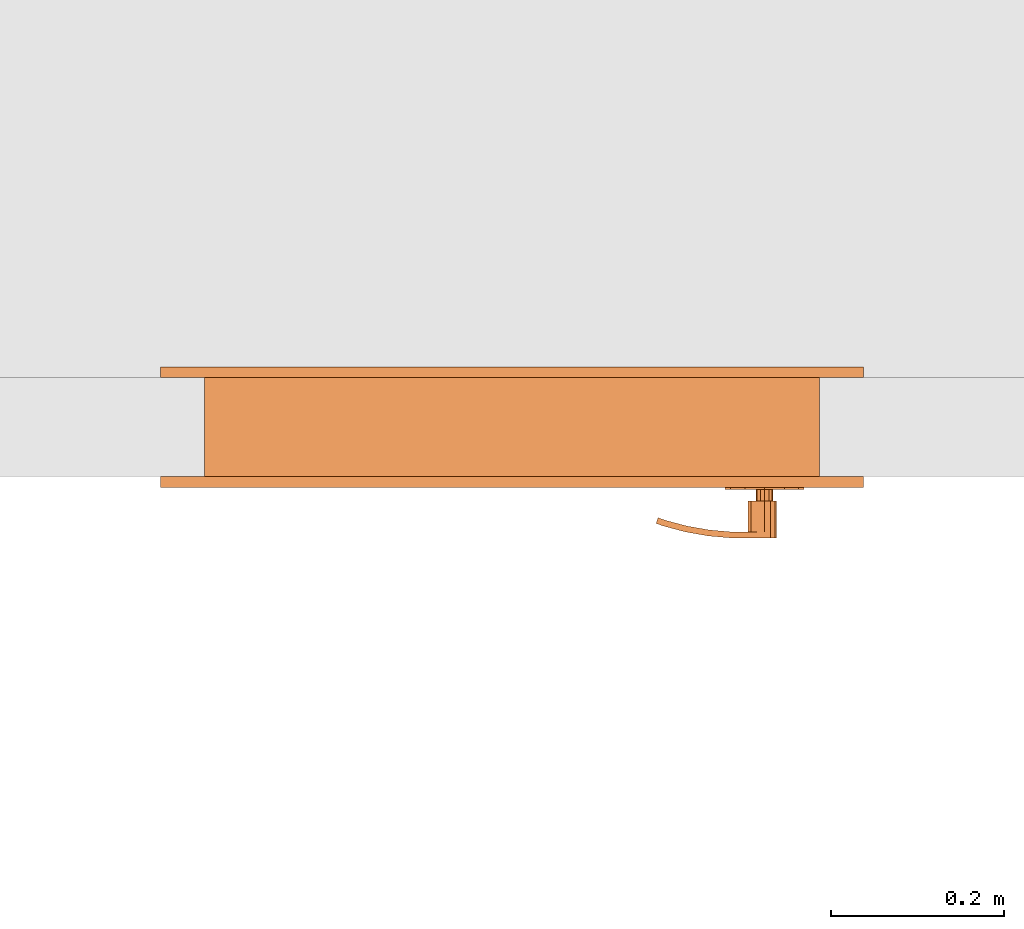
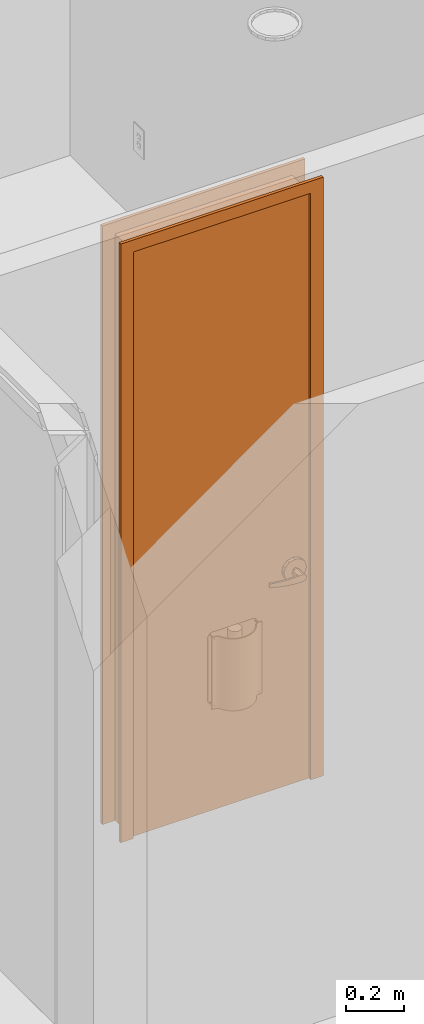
# One storey, part 43 of 48: 1 proxy.
"""IFC2X3 building model written with IfcOpenShell, lengths in inches."""

from ifc_helpers import new_model, entity, si_unit, converted_unit, derived_unit, money_unit, direction, frame, origin_with_axes, place, context, subcontext, project, spatial, open_shell, faceted_brep, surface_model, type_object, element, save


model = new_model("IFC2X3")

# Units and contexts
model_context = context("Model", 3, precision=0.00039370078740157, world=origin_with_axes(), true_north=direction((0.0, 1.0)))
plan_context = context("Plan", 3, precision=0.00039370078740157, world=origin_with_axes(), true_north=direction((0.0, 1.0)))
body_context = subcontext(model_context, "Body", "Model", "MODEL_VIEW")
ifc_project = project(units=[converted_unit("LENGTHUNIT", "INCH", entity("IfcPositiveLengthMeasure", 0.0254), si_unit("LENGTHUNIT", "METRE"), dimensions=[1, 0, 0, 0, 0, 0, 0]), converted_unit("AREAUNIT", "SQUARE_FOOT", entity("IfcPositiveLengthMeasure", 0.09290304), si_unit("AREAUNIT", "SQUARE_METRE"), dimensions=[2, 0, 0, 0, 0, 0, 0]), si_unit("PLANEANGLEUNIT", "RADIAN"), si_unit("SOLIDANGLEUNIT", "STERADIAN"), money_unit("USD"), converted_unit("TIMEUNIT", "Year", entity("IfcTimeMeasure", 31557600.0), si_unit("TIMEUNIT", "SECOND"), dimensions=[0, 0, 1, 0, 0, 0, 0]), si_unit("MASSUNIT", "GRAM", prefix="KILO"), si_unit("THERMODYNAMICTEMPERATUREUNIT", "DEGREE_CELSIUS"), si_unit("LUMINOUSINTENSITYUNIT", "LUMEN"), si_unit("ENERGYUNIT", "JOULE", prefix="MEGA"), derived_unit("SPECIFICHEATCAPACITYUNIT", [(si_unit("ENERGYUNIT", "JOULE"), 1), (si_unit("MASSUNIT", "GRAM", prefix="KILO"), -1), (si_unit("THERMODYNAMICTEMPERATUREUNIT", "KELVIN"), -1)])], contexts=[model_context, plan_context])

# Site, building, storey
site_placement = place(None, origin_with_axes())
site = spatial("IfcSite", under=ifc_project, at=site_placement, Name="Site", CompositionType="ELEMENT")
building_placement = place(site_placement, origin_with_axes())
building = spatial("IfcBuilding", under=site, at=building_placement, Name="Building", CompositionType="ELEMENT")
storey_placement = place(building_placement, origin_with_axes())
storey = spatial("IfcBuildingStorey", under=building, at=storey_placement, Name="First Floor", CompositionType="ELEMENT", Elevation=0.0)

# Proxy
building_element_proxy_type = type_object("IfcBuildingElementProxyType", Name="D1", PredefinedType="NOTDEFINED")
proxy_placement = place(storey_placement, frame((55.49999999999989, 412.999999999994, 0.0), z_axis=(0.0, 0.0, 1.0), x_axis=(-1.0, 0.0, 0.0)))
element("IfcBuildingElementProxy", 1, at=proxy_placement, inside=storey, type_object=building_element_proxy_type, Name="D-08", context=body_context, shape_type="SurfaceModel", body=[
    faceted_brep([(-1.999999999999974, 4.999999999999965, 0.0), (0.0, 4.999999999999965, 0.0), (0.0, 4.499999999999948, 0.0), (-1.999999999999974, 4.499999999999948, 0.0), (-1.999999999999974, 4.999999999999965, 99.99999999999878), (0.0, 4.999999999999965, 97.99999999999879), (0.0, 4.499999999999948, 97.99999999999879), (-1.999999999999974, 4.499999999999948, 99.99999999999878)], [[[0, 1, 2, 3]], [[0, 4, 5, 1]], [[1, 5, 6, 2]], [[3, 2, 6, 7]], [[4, 0, 3, 7]], [[5, 4, 7, 6]]]),
    faceted_brep([(29.99999999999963, 4.999999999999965, 99.99999999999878), (27.99999999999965, 4.999999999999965, 97.99999999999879), (27.99999999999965, 4.499999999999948, 97.99999999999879), (29.99999999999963, 4.499999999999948, 99.99999999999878), (29.99999999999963, 4.999999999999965, 0.0), (27.99999999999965, 4.999999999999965, 0.0), (27.99999999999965, 4.499999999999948, 0.0), (29.99999999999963, 4.499999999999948, 0.0)], [[[0, 1, 2, 3]], [[0, 4, 5, 1]], [[1, 5, 6, 2]], [[3, 2, 6, 7]], [[4, 0, 3, 7]], [[5, 4, 7, 6]]]),
    faceted_brep([(-1.999999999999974, 4.999999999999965, 99.99999999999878), (0.0, 4.999999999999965, 97.99999999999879), (0.0, 4.499999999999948, 97.99999999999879), (-1.999999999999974, 4.499999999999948, 99.99999999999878), (29.99999999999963, 4.999999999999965, 99.99999999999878), (27.99999999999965, 4.999999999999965, 97.99999999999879), (27.99999999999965, 4.499999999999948, 97.99999999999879), (29.99999999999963, 4.499999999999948, 99.99999999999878)], [[[0, 1, 2, 3]], [[0, 4, 5, 1]], [[1, 5, 6, 2]], [[3, 2, 6, 7]], [[4, 0, 3, 7]], [[5, 4, 7, 6]]]),
    faceted_brep([(-1.999999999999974, -0.5000000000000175, 0.0), (-1.999999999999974, 0.0, 0.0), (0.0, 0.0, 0.0), (0.0, -0.5000000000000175, 0.0), (-1.999999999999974, -0.5000000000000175, 99.99999999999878), (-1.999999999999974, 0.0, 99.99999999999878), (0.0, 0.0, 97.99999999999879), (0.0, -0.5000000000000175, 97.99999999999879)], [[[0, 1, 2, 3]], [[4, 5, 1, 0]], [[1, 5, 6, 2]], [[3, 2, 6, 7]], [[0, 3, 7, 4]], [[7, 6, 5, 4]]]),
    faceted_brep([(29.99999999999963, -0.5000000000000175, 99.99999999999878), (29.99999999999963, 0.0, 99.99999999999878), (27.99999999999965, 0.0, 97.99999999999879), (27.99999999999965, -0.5000000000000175, 97.99999999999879), (29.99999999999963, -0.5000000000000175, 0.0), (29.99999999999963, 0.0, 0.0), (27.99999999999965, 0.0, 0.0), (27.99999999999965, -0.5000000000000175, 0.0)], [[[0, 1, 2, 3]], [[4, 5, 1, 0]], [[1, 5, 6, 2]], [[3, 2, 6, 7]], [[0, 3, 7, 4]], [[7, 6, 5, 4]]]),
    faceted_brep([(-1.999999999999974, -0.5000000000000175, 99.99999999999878), (-1.999999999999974, 0.0, 99.99999999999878), (0.0, 0.0, 97.99999999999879), (0.0, -0.5000000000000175, 97.99999999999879), (29.99999999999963, -0.5000000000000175, 99.99999999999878), (29.99999999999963, 0.0, 99.99999999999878), (27.99999999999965, 0.0, 97.99999999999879), (27.99999999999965, -0.5000000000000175, 97.99999999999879)], [[[0, 1, 2, 3]], [[4, 5, 1, 0]], [[1, 5, 6, 2]], [[3, 2, 6, 7]], [[0, 3, 7, 4]], [[7, 6, 5, 4]]]),
    faceted_brep([(0.0, 4.499999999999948, 0.0), (0.4999999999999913, 4.499999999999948, 0.0), (0.4999999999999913, 0.0, 0.0), (0.0, 0.0, 0.0), (0.0, 4.499999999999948, 97.49999999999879), (0.4999999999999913, 4.499999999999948, 97.49999999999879), (0.4999999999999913, 0.0, 97.49999999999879), (0.0, 0.0, 97.49999999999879)], [[[0, 1, 2, 3]], [[0, 4, 5, 1]], [[1, 5, 6, 2]], [[3, 2, 6, 7]], [[4, 0, 3, 7]], [[5, 4, 7, 6]]]),
    faceted_brep([(27.99999999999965, 4.499999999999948, 0.0), (27.99999999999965, 4.499999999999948, 97.49999999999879), (27.99999999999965, 0.0, 97.49999999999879), (27.99999999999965, 0.0, 0.0), (27.49999999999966, 4.499999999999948, 0.0), (27.49999999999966, 4.499999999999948, 97.49999999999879), (27.49999999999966, 0.0, 97.49999999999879), (27.49999999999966, 0.0, 0.0)], [[[0, 1, 2, 3]], [[0, 4, 5, 1]], [[1, 5, 6, 2]], [[3, 2, 6, 7]], [[4, 0, 3, 7]], [[5, 4, 7, 6]]]),
    faceted_brep([(0.0, 4.499999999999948, 97.99999999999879), (0.0, 4.499999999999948, 97.49999999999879), (0.0, 0.0, 97.49999999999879), (0.0, 0.0, 97.99999999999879), (27.99999999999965, 4.499999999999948, 97.99999999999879), (27.99999999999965, 4.499999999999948, 97.49999999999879), (27.49999999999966, 4.499999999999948, 97.49999999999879), (0.4999999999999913, 4.499999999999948, 97.49999999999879), (0.4999999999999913, 0.0, 97.49999999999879), (27.49999999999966, 0.0, 97.49999999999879), (27.99999999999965, 0.0, 97.49999999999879), (27.99999999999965, 0.0, 97.99999999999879)], [[[0, 1, 2, 3]], [[0, 4, 5, 6, 7, 1]], [[1, 7, 8, 2]], [[3, 2, 8, 9, 10, 11]], [[4, 0, 3, 11]], [[5, 4, 11, 10]], [[6, 5, 10, 9]], [[7, 6, 9, 8]]]),
    surface_model("IfcShellBasedSurfaceModel", [(4.051344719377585, 2.159448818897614, 36.89566929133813), (4.291338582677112, 2.159448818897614, 35.99999999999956), (4.291338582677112, 2.16338582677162, 35.99999999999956), (4.051344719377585, 2.16338582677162, 36.89566929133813), (3.395669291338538, 2.159448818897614, 37.55134471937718), (2.499999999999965, 2.159448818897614, 37.7913385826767), (1.604330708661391, 2.159448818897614, 37.55134471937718), (0.9486552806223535, 2.159448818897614, 36.89566929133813), (0.7086614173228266, 2.159448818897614, 35.99999999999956), (0.9486552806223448, 2.159448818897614, 35.10433070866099), (1.604330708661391, 2.159448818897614, 34.44865528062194), (2.499999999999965, 2.159448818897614, 34.20866141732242), (3.395669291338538, 2.159448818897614, 34.44865528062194), (4.051344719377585, 2.159448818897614, 35.10433070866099), (4.051344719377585, 2.16338582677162, 35.10433070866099), (4.291338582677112, 2.746062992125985, 35.99999999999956), (4.051344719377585, 2.746062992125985, 36.89566929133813), (3.395669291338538, 2.16338582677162, 37.55134471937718), (2.499999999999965, 2.16338582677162, 37.7913385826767), (1.604330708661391, 2.16338582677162, 37.55134471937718), (0.9486552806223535, 2.16338582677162, 36.89566929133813), (0.7086614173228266, 2.16338582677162, 35.99999999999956), (0.9486552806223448, 2.16338582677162, 35.10433070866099), (1.604330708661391, 2.16338582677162, 34.44865528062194), (2.499999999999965, 2.16338582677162, 34.20866141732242), (3.395669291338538, 2.16338582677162, 34.44865528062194), (4.051344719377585, 2.746062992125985, 35.10433070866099), (4.291338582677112, 2.749999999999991, 35.99999999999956), (4.051344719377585, 2.749999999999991, 36.89566929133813), (3.395669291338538, 2.746062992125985, 37.55134471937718), (2.499999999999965, 2.746062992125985, 37.7913385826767), (1.604330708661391, 2.746062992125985, 37.55134471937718), (0.9486552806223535, 2.746062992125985, 36.89566929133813), (0.7086614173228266, 2.746062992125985, 35.99999999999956), (0.9486552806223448, 2.746062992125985, 35.10433070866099), (1.604330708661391, 2.746062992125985, 34.44865528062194), (2.499999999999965, 2.746062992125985, 34.20866141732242), (3.395669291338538, 2.746062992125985, 34.44865528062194), (4.051344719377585, 2.749999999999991, 35.10433070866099), (3.395669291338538, 2.749999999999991, 37.55134471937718), (2.499999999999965, 2.749999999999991, 37.7913385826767), (1.604330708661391, 2.749999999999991, 37.55134471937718), (0.9486552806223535, 2.749999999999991, 36.89566929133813), (0.7086614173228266, 2.749999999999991, 35.99999999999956), (0.9486552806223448, 2.749999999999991, 35.10433070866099), (1.604330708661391, 2.749999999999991, 34.44865528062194), (2.499999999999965, 2.749999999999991, 34.20866141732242), (3.395669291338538, 2.749999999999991, 34.44865528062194)], [open_shell([[[0, 1, 2, 3]], [[1, 0, 4, 5, 6, 7, 8, 9, 10, 11, 12, 13]], [[1, 13, 14, 2]], [[3, 2, 15, 16]], [[4, 0, 3, 17]], [[5, 4, 17, 18]], [[6, 5, 18, 19]], [[7, 6, 19, 20]], [[8, 7, 20, 21]], [[9, 8, 21, 22]], [[10, 9, 22, 23]], [[11, 10, 23, 24]], [[12, 11, 24, 25]], [[13, 12, 25, 14]], [[2, 14, 26, 15]], [[16, 15, 27, 28]], [[17, 3, 16, 29]], [[18, 17, 29, 30]], [[19, 18, 30, 31]], [[20, 19, 31, 32]], [[21, 20, 32, 33]], [[22, 21, 33, 34]], [[23, 22, 34, 35]], [[24, 23, 35, 36]], [[25, 24, 36, 37]], [[14, 25, 37, 26]], [[15, 26, 38, 27]], [[29, 16, 28, 39]], [[30, 29, 39, 40]], [[31, 30, 40, 41]], [[32, 31, 41, 42]], [[33, 32, 42, 43]], [[34, 33, 43, 44]], [[35, 34, 44, 45]], [[36, 35, 45, 46]], [[37, 36, 46, 47]], [[26, 37, 47, 38]]])]),
    faceted_brep([(2.303149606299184, 2.159448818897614, 35.65904511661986), (2.159045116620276, 2.159448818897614, 35.80314960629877), (2.106299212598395, 2.159448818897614, 35.99999999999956), (2.159045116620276, 2.159448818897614, 36.19685039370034), (2.303149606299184, 2.159448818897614, 36.34095488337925), (2.499999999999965, 2.159448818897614, 36.39370078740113), (2.696850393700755, 2.159448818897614, 36.34095488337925), (2.840954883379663, 2.159448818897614, 36.19685039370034), (2.893700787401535, 2.159448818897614, 35.99999999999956), (2.840954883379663, 2.159448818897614, 35.80314960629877), (2.696850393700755, 2.159448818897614, 35.65904511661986), (2.499999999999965, 2.159448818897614, 35.60629921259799), (2.303149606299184, 1.647637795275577, 35.65904511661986), (2.159045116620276, 1.647637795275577, 35.80314960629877), (2.106299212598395, 1.647637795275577, 35.99999999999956), (2.159045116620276, 1.647637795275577, 36.19685039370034), (2.303149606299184, 1.647637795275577, 36.34095488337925), (2.499999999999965, 1.647637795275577, 36.39370078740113), (2.696850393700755, 1.647637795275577, 36.34095488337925), (2.840954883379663, 1.647637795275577, 36.19685039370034), (2.893700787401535, 1.647637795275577, 35.99999999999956), (2.840954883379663, 1.647637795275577, 35.80314960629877), (2.696850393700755, 1.647637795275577, 35.65904511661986), (2.499999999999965, 1.647637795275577, 35.60629921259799)], [[[0, 1, 2, 3, 4, 5, 6, 7, 8, 9, 10, 11]], [[1, 0, 12, 13]], [[2, 1, 13, 14]], [[3, 2, 14, 15]], [[4, 3, 15, 16]], [[5, 4, 16, 17]], [[6, 5, 17, 18]], [[7, 6, 18, 19]], [[8, 7, 19, 20]], [[9, 8, 20, 21]], [[10, 9, 21, 22]], [[11, 10, 22, 23]], [[0, 11, 23, 12]], [[12, 23, 22, 21, 20, 19, 18, 17, 16, 15, 14, 13]]]),
    faceted_brep([(2.499999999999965, 1.647637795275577, 36.55118110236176), (2.22440944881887, 1.647637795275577, 36.47733683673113), (2.22440944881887, 0.2303149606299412, 36.47733683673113), (2.499999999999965, 0.2303149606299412, 36.55118110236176), (2.893700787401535, 1.647637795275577, 36.47244094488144), (3.126478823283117, 1.647637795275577, 36.35358914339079), (3.262948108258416, 1.647637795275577, 36.13068221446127), (3.262948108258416, 1.647637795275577, 35.86931778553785), (3.126478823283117, 1.647637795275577, 35.64641085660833), (2.893700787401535, 1.647637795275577, 35.52755905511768), (2.499999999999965, 1.647637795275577, 35.44881889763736), (2.22440944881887, 1.647637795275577, 35.52266316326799), (2.022663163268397, 1.647637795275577, 35.72440944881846), (1.948818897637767, 1.647637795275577, 35.99999999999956), (2.022663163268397, 1.647637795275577, 36.27559055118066), (2.022663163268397, 0.2303149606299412, 36.27559055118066), (1.948818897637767, 0.2303149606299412, 35.99999999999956), (2.022663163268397, 0.2303149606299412, 35.72440944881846), (2.22440944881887, 0.2303149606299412, 35.52266316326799), (2.499999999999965, 0.2303149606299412, 35.44881889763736), (2.893700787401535, 0.2303149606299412, 35.52755905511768), (3.126478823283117, 0.2303149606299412, 35.64641085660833), (3.262948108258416, 0.2303149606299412, 35.86931778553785), (3.262948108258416, 0.2303149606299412, 36.13068221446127), (3.126478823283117, 0.2303149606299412, 36.35358914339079), (2.893700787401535, 0.2303149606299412, 36.47244094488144)], [[[0, 1, 2, 3]], [[0, 4, 5, 6, 7, 8, 9, 10, 11, 12, 13, 14, 1]], [[1, 14, 15, 2]], [[3, 2, 15, 16, 17, 18, 19, 20, 21, 22, 23, 24, 25]], [[4, 0, 3, 25]], [[5, 4, 25, 24]], [[6, 5, 24, 23]], [[7, 6, 23, 22]], [[8, 7, 22, 21]], [[9, 8, 21, 20]], [[10, 9, 20, 19]], [[11, 10, 19, 18]], [[12, 11, 18, 17]], [[13, 12, 17, 16]], [[14, 13, 16, 15]]]),
    surface_model("IfcShellBasedSurfaceModel", [(2.499999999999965, 0.2303149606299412, 36.55118110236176), (2.22440944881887, 0.2303149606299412, 36.47733683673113), (2.22440944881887, -0.04527559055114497, 36.47733683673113), (2.499999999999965, -0.04527559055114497, 36.55118110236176), (3.484251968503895, 0.2303149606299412, 36.55118110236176), (3.484251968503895, 0.2303149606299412, 35.44881889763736), (2.499999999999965, 0.2303149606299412, 35.44881889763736), (2.22440944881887, 0.2303149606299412, 35.52266316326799), (2.022663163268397, 0.2303149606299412, 35.72440944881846), (1.948818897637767, 0.2303149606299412, 35.99999999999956), (2.022663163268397, 0.2303149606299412, 36.27559055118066), (2.022663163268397, -0.04527559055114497, 36.27559055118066), (1.948818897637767, -0.04527559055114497, 35.99999999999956), (2.022663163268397, -0.04527559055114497, 35.72440944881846), (2.22440944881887, -0.04527559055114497, 35.52266316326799), (2.499999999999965, -0.04527559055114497, 35.44881889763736), (3.484251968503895, -0.04527559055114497, 35.44881889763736), (3.484251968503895, -0.04527559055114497, 36.55118110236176)], [open_shell([[[0, 1, 2, 3]], [[0, 4, 5, 6, 7, 8, 9, 10, 1]], [[1, 10, 11, 2]], [[3, 2, 11, 12, 13, 14, 15, 16, 17]], [[4, 0, 3, 17]], [[6, 5, 16, 15]], [[7, 6, 15, 14]], [[8, 7, 14, 13]], [[9, 8, 13, 12]], [[10, 9, 12, 11]]])]),
    surface_model("IfcShellBasedSurfaceModel", [(3.484251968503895, 0.2303149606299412, 35.44881889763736), (3.999932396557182, 0.2303149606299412, 35.47974008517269), (4.011964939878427, -0.04527559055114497, 35.47974008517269), (3.484251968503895, 0.2303149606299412, 36.55118110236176), (3.999932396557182, 0.2303149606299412, 36.52025991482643), (5.063374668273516, 0.04671084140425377, 35.54158246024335), (3.484251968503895, -0.04527559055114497, 35.44881889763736), (3.484251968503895, -0.04527559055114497, 36.55118110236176), (5.027368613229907, 0.320203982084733, 36.45841753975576), (5.027368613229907, 0.320203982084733, 35.54158246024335), (5.063374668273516, 0.04671084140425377, 36.45841753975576), (4.011964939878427, -0.04527559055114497, 36.52025991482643), (6.043060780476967, 0.4992979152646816, 36.3965751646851), (6.043060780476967, 0.4992979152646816, 35.60342483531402), (6.102766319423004, 0.229983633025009, 35.60342483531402), (6.102766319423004, 0.229983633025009, 36.3965751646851), (7.039278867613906, 0.7662337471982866, 36.33473278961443), (7.039278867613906, 0.7662337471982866, 35.66526721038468), (7.122229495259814, 0.5031479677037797, 35.66526721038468), (7.122229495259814, 0.5031479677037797, 36.33473278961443), (7.349234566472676, 0.8790483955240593, 36.31496062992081), (7.349234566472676, 0.8790483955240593, 35.6850393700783), (7.43941749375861, 0.6185949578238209, 35.6850393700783), (7.43941749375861, 0.6185949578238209, 36.31496062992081)], [open_shell([[[0, 1, 2]], [[0, 3, 4, 1]], [[1, 5, 2]], [[0, 2, 6]], [[4, 3, 7]], [[1, 4, 8, 9]], [[1, 9, 5]], [[2, 5, 10, 11]], [[6, 2, 11, 7]], [[4, 7, 11]], [[8, 4, 11]], [[9, 8, 12, 13]], [[9, 14, 5]], [[5, 14, 15, 10]], [[8, 11, 10]], [[12, 8, 10]], [[13, 12, 16, 17]], [[9, 13, 14]], [[14, 18, 19, 15]], [[12, 10, 15]], [[16, 12, 15]], [[17, 16, 20, 21]], [[13, 17, 18]], [[13, 18, 14]], [[18, 22, 23, 19]], [[16, 15, 19]], [[20, 16, 19]], [[21, 20, 23, 22]], [[17, 21, 22]], [[17, 22, 18]], [[20, 19, 23]]])]),
    surface_model("IfcShellBasedSurfaceModel", [(4.051344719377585, 5.090551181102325, 36.89566929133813), (4.051344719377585, 5.086614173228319, 36.89566929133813), (4.291338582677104, 5.086614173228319, 35.99999999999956), (4.291338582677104, 5.090551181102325, 35.99999999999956), (3.395669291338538, 5.090551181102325, 37.55134471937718), (3.395669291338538, 5.086614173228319, 37.55134471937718), (4.051344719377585, 4.503937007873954, 36.89566929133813), (4.291338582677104, 4.503937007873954, 35.99999999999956), (4.051344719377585, 5.086614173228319, 35.10433070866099), (4.051344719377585, 5.090551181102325, 35.10433070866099), (3.395669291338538, 5.090551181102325, 34.44865528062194), (2.499999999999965, 5.090551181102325, 34.20866141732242), (1.604330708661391, 5.090551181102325, 34.44865528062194), (0.9486552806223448, 5.090551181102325, 35.10433070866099), (0.7086614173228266, 5.090551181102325, 35.99999999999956), (0.9486552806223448, 5.090551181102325, 36.89566929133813), (1.604330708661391, 5.090551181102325, 37.55134471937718), (2.499999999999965, 5.090551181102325, 37.7913385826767), (2.499999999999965, 5.086614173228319, 37.7913385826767), (3.395669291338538, 4.503937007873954, 37.55134471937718), (4.051344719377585, 4.499999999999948, 36.89566929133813), (4.291338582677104, 4.499999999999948, 35.99999999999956), (4.051344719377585, 4.503937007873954, 35.10433070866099), (3.395669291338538, 5.086614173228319, 34.44865528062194), (2.499999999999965, 5.086614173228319, 34.20866141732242), (1.604330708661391, 5.086614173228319, 34.44865528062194), (0.9486552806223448, 5.086614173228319, 35.10433070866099), (0.7086614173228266, 5.086614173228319, 35.99999999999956), (0.9486552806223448, 5.086614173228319, 36.89566929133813), (1.604330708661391, 5.086614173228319, 37.55134471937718), (2.499999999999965, 4.503937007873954, 37.7913385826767), (3.395669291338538, 4.499999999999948, 37.55134471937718), (4.051344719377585, 4.499999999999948, 35.10433070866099), (3.395669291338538, 4.503937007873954, 34.44865528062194), (2.499999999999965, 4.503937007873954, 34.20866141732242), (1.604330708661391, 4.503937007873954, 34.44865528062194), (0.9486552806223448, 4.503937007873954, 35.10433070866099), (0.7086614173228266, 4.503937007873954, 35.99999999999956), (0.9486552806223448, 4.503937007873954, 36.89566929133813), (1.604330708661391, 4.503937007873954, 37.55134471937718), (2.499999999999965, 4.499999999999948, 37.7913385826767), (3.395669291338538, 4.499999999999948, 34.44865528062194), (2.499999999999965, 4.499999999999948, 34.20866141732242), (1.604330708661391, 4.499999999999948, 34.44865528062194), (0.9486552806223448, 4.499999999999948, 35.10433070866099), (0.7086614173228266, 4.499999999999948, 35.99999999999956), (0.9486552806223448, 4.499999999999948, 36.89566929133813), (1.604330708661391, 4.499999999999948, 37.55134471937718)], [open_shell([[[0, 1, 2, 3]], [[4, 5, 1, 0]], [[1, 6, 7, 2]], [[3, 2, 8, 9]], [[3, 9, 10, 11, 12, 13, 14, 15, 16, 17, 4, 0]], [[17, 18, 5, 4]], [[5, 19, 6, 1]], [[6, 20, 21, 7]], [[2, 7, 22, 8]], [[9, 8, 23, 10]], [[10, 23, 24, 11]], [[11, 24, 25, 12]], [[12, 25, 26, 13]], [[13, 26, 27, 14]], [[14, 27, 28, 15]], [[15, 28, 29, 16]], [[16, 29, 18, 17]], [[18, 30, 19, 5]], [[19, 31, 20, 6]], [[7, 21, 32, 22]], [[8, 22, 33, 23]], [[23, 33, 34, 24]], [[24, 34, 35, 25]], [[25, 35, 36, 26]], [[26, 36, 37, 27]], [[27, 37, 38, 28]], [[28, 38, 39, 29]], [[29, 39, 30, 18]], [[30, 40, 31, 19]], [[22, 32, 41, 33]], [[33, 41, 42, 34]], [[34, 42, 43, 35]], [[35, 43, 44, 36]], [[36, 44, 45, 37]], [[37, 45, 46, 38]], [[38, 46, 47, 39]], [[39, 47, 40, 30]]])]),
    faceted_brep([(2.303149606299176, 5.090551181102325, 35.65904511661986), (2.499999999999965, 5.090551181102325, 35.60629921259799), (2.696850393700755, 5.090551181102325, 35.65904511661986), (2.840954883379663, 5.090551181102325, 35.80314960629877), (2.893700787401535, 5.090551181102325, 35.99999999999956), (2.840954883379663, 5.090551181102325, 36.19685039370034), (2.696850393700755, 5.090551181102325, 36.34095488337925), (2.499999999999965, 5.090551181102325, 36.39370078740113), (2.303149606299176, 5.090551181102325, 36.34095488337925), (2.159045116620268, 5.090551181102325, 36.19685039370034), (2.106299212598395, 5.090551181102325, 35.99999999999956), (2.159045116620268, 5.090551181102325, 35.80314960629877), (2.303149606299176, 5.602362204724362, 35.65904511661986), (2.499999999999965, 5.602362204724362, 35.60629921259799), (2.696850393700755, 5.602362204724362, 35.65904511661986), (2.840954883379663, 5.602362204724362, 35.80314960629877), (2.893700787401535, 5.602362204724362, 35.99999999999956), (2.840954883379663, 5.602362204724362, 36.19685039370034), (2.696850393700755, 5.602362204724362, 36.34095488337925), (2.499999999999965, 5.602362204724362, 36.39370078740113), (2.303149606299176, 5.602362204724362, 36.34095488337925), (2.159045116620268, 5.602362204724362, 36.19685039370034), (2.106299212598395, 5.602362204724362, 35.99999999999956), (2.159045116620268, 5.602362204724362, 35.80314960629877)], [[[0, 1, 2, 3, 4, 5, 6, 7, 8, 9, 10, 11]], [[0, 12, 13, 1]], [[1, 13, 14, 2]], [[2, 14, 15, 3]], [[3, 15, 16, 4]], [[4, 16, 17, 5]], [[5, 17, 18, 6]], [[6, 18, 19, 7]], [[7, 19, 20, 8]], [[8, 20, 21, 9]], [[9, 21, 22, 10]], [[10, 22, 23, 11]], [[11, 23, 12, 0]], [[12, 23, 22, 21, 20, 19, 18, 17, 16, 15, 14, 13]]]),
    faceted_brep([(2.499999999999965, 5.602362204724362, 36.55118110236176), (2.499999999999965, 7.019685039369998, 36.55118110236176), (2.22440944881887, 7.019685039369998, 36.47733683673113), (2.22440944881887, 5.602362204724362, 36.47733683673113), (2.893700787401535, 5.602362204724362, 36.47244094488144), (2.893700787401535, 7.019685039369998, 36.47244094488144), (3.126478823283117, 7.019685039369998, 36.35358914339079), (3.262948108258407, 7.019685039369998, 36.13068221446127), (3.262948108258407, 7.019685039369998, 35.86931778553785), (3.126478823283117, 7.019685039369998, 35.64641085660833), (2.893700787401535, 7.019685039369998, 35.52755905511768), (2.499999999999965, 7.019685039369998, 35.44881889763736), (2.22440944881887, 7.019685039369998, 35.52266316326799), (2.022663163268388, 7.019685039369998, 35.72440944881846), (1.948818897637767, 7.019685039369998, 35.99999999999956), (2.022663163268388, 7.019685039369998, 36.27559055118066), (2.022663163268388, 5.602362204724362, 36.27559055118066), (1.948818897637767, 5.602362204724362, 35.99999999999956), (2.022663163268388, 5.602362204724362, 35.72440944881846), (2.22440944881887, 5.602362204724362, 35.52266316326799), (2.499999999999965, 5.602362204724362, 35.44881889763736), (2.893700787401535, 5.602362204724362, 35.52755905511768), (3.126478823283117, 5.602362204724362, 35.64641085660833), (3.262948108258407, 5.602362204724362, 35.86931778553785), (3.262948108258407, 5.602362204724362, 36.13068221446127), (3.126478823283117, 5.602362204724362, 36.35358914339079)], [[[0, 1, 2, 3]], [[4, 5, 1, 0]], [[1, 5, 6, 7, 8, 9, 10, 11, 12, 13, 14, 15, 2]], [[3, 2, 15, 16]], [[0, 3, 16, 17, 18, 19, 20, 21, 22, 23, 24, 25, 4]], [[25, 6, 5, 4]], [[24, 7, 6, 25]], [[23, 8, 7, 24]], [[22, 9, 8, 23]], [[21, 10, 9, 22]], [[20, 11, 10, 21]], [[19, 12, 11, 20]], [[18, 13, 12, 19]], [[17, 14, 13, 18]], [[16, 15, 14, 17]]]),
    surface_model("IfcShellBasedSurfaceModel", [(2.499999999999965, 7.019685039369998, 36.55118110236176), (2.499999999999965, 7.295275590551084, 36.55118110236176), (2.22440944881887, 7.295275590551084, 36.47733683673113), (2.22440944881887, 7.019685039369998, 36.47733683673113), (3.484251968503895, 7.019685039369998, 36.55118110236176), (3.484251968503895, 7.295275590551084, 36.55118110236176), (3.484251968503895, 7.295275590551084, 35.44881889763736), (2.499999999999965, 7.295275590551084, 35.44881889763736), (2.22440944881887, 7.295275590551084, 35.52266316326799), (2.022663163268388, 7.295275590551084, 35.72440944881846), (1.948818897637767, 7.295275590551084, 35.99999999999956), (2.022663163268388, 7.295275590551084, 36.27559055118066), (2.022663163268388, 7.019685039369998, 36.27559055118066), (1.948818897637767, 7.019685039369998, 35.99999999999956), (2.022663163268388, 7.019685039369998, 35.72440944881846), (2.22440944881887, 7.019685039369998, 35.52266316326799), (2.499999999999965, 7.019685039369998, 35.44881889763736), (3.484251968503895, 7.019685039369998, 35.44881889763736)], [open_shell([[[0, 1, 2, 3]], [[4, 5, 1, 0]], [[1, 5, 6, 7, 8, 9, 10, 11, 2]], [[3, 2, 11, 12]], [[0, 3, 12, 13, 14, 15, 16, 17, 4]], [[16, 7, 6, 17]], [[15, 8, 7, 16]], [[14, 9, 8, 15]], [[13, 10, 9, 14]], [[12, 11, 10, 13]]])]),
    surface_model("IfcShellBasedSurfaceModel", [(3.484251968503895, 7.019685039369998, 35.44881889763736), (4.011964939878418, 7.295275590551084, 35.47974008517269), (3.999932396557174, 7.019685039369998, 35.47974008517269), (3.484251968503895, 7.295275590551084, 35.44881889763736), (5.063374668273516, 7.203289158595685, 35.54158246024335), (3.999932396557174, 7.019685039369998, 36.52025991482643), (3.484251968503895, 7.019685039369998, 36.55118110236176), (3.484251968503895, 7.295275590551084, 36.55118110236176), (4.011964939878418, 7.295275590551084, 36.52025991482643), (5.063374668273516, 7.203289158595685, 36.45841753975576), (5.027368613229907, 6.929796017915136, 35.54158246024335), (5.027368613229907, 6.929796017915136, 36.45841753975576), (6.102766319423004, 7.02001636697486, 36.3965751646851), (6.102766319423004, 7.02001636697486, 35.60342483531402), (6.043060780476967, 6.750702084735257, 35.60342483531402), (6.043060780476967, 6.750702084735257, 36.3965751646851), (7.122229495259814, 6.746852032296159, 36.33473278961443), (7.122229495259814, 6.746852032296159, 35.66526721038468), (7.039278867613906, 6.483766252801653, 35.66526721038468), (7.039278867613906, 6.483766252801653, 36.33473278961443), (7.43941749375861, 6.631405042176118, 36.31496062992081), (7.43941749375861, 6.631405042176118, 35.6850393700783), (7.349234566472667, 6.37095160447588, 35.6850393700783), (7.349234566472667, 6.37095160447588, 36.31496062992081)], [open_shell([[[0, 1, 2]], [[0, 3, 1]], [[2, 1, 4]], [[0, 2, 5, 6]], [[3, 7, 8, 1]], [[1, 8, 9, 4]], [[2, 4, 10]], [[2, 10, 11, 5]], [[5, 7, 6]], [[5, 8, 7]], [[11, 9, 8]], [[4, 9, 12, 13]], [[10, 4, 13]], [[10, 14, 15, 11]], [[11, 8, 5]], [[15, 9, 11]], [[15, 12, 9]], [[13, 12, 16, 17]], [[10, 13, 14]], [[14, 18, 19, 15]], [[19, 12, 15]], [[19, 16, 12]], [[17, 16, 20, 21]], [[14, 13, 17]], [[14, 17, 18]], [[18, 22, 23, 19]], [[23, 16, 19]], [[23, 20, 16]], [[22, 21, 20, 23]], [[18, 17, 21]], [[18, 21, 22]]])]),
    faceted_brep([(0.539370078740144, 2.749999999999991, 0.03937007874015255), (27.4606299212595, 2.749999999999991, 0.03937007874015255), (27.4606299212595, 2.749999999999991, 97.46062992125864), (0.539370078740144, 2.749999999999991, 97.46062992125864), (27.4606299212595, 4.499999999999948, 0.03937007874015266), (0.539370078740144, 4.499999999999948, 0.03937007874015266), (27.4606299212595, 4.499999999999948, 97.46062992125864), (0.539370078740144, 4.499999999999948, 97.46062992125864)], [[[0, 1, 2, 3]], [[4, 1, 0, 5]], [[1, 4, 6, 2]], [[2, 6, 7, 3]], [[5, 0, 3, 7]], [[4, 5, 7, 6]]]),
    faceted_brep([(27.49999999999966, 4.499999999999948, 0.0), (27.49999999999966, 2.749999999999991, 0.0), (0.4999999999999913, 2.749999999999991, 0.0), (0.4999999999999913, 4.499999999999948, 0.0), (27.49999999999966, 4.499999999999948, 97.49999999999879), (27.49999999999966, 2.749999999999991, 97.49999999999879), (0.4999999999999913, 2.749999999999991, 97.49999999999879), (27.4606299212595, 2.749999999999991, 0.03937007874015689), (0.539370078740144, 2.749999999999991, 0.03937007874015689), (0.539370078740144, 2.749999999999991, 97.46062992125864), (27.4606299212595, 2.749999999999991, 97.46062992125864), (0.4999999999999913, 4.499999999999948, 97.49999999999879), (27.4606299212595, 4.499999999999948, 0.039370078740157), (27.4606299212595, 4.499999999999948, 97.46062992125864), (0.539370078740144, 4.499999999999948, 97.46062992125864), (0.539370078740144, 4.499999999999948, 0.039370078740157)], [[[0, 1, 2, 3]], [[4, 5, 1, 0]], [[1, 5, 6, 2], [7, 8, 9, 10]], [[3, 2, 6, 11]], [[0, 3, 11, 4], [12, 13, 14, 15]], [[11, 6, 5, 4]], [[15, 8, 7, 12]], [[14, 9, 8, 15]], [[13, 10, 9, 14]], [[12, 7, 10, 13]]]),
])

save(model, "model.ifc")
